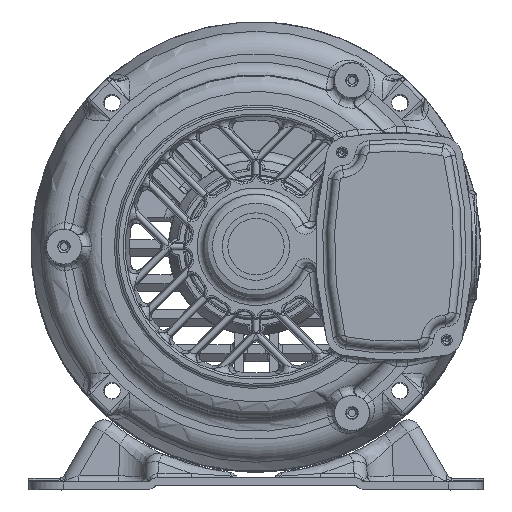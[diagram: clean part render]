
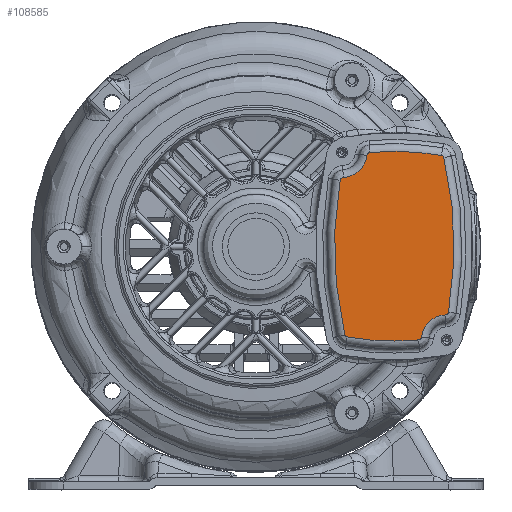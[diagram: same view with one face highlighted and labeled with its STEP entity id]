
A CAD part, top view. The second image highlights one B-rep face of the part: STEP entity #108585.
In plain terms, the highlighted planar face has unit normal (0, 0, 1) as drawn and (0, 0, -1) by its records, which use the part's own axes.
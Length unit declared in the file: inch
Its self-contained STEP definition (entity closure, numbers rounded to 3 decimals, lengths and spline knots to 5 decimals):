
#106976=CARTESIAN_POINT('',(-1.25804,-0.66754,-0.625));
#106977=DIRECTION('',(0.,0.,-1.));
#106978=DIRECTION('',(-0.231,-0.973,0.));
#106979=AXIS2_PLACEMENT_3D('',#106976,#106977,#106978);
#106981=CARTESIAN_POINT('',(0.,4.625,-0.625));
#106982=DIRECTION('',(0.,0.,-1.));
#106983=DIRECTION('',(0.172,-0.985,0.));
#106984=AXIS2_PLACEMENT_3D('',#106981,#106982,#106983);
#106986=CARTESIAN_POINT('',(0.93459,-0.72803,-0.625));
#106987=DIRECTION('',(0.,0.,-1.));
#106988=DIRECTION('',(0.999,-0.054,0.));
#106989=AXIS2_PLACEMENT_3D('',#106986,#106987,#106988);
#106991=CARTESIAN_POINT('',(1.344,-0.75,-0.625));
#106992=DIRECTION('',(0.,0.,1.));
#106993=DIRECTION('',(-0.122,0.993,0.));
#106994=AXIS2_PLACEMENT_3D('',#106991,#106992,#106993);
#106996=CARTESIAN_POINT('',(1.29401,-0.34306,-0.625));
#106997=DIRECTION('',(0.,0.,-1.));
#106998=DIRECTION('',(0.996,-0.087,0.));
#106999=AXIS2_PLACEMENT_3D('',#106996,#106997,#106998);
#107001=CARTESIAN_POINT('',(-2.625,0.,-0.625));
#107002=DIRECTION('',(0.,0.,-1.));
#107003=DIRECTION('',(0.986,0.169,0.));
#107004=AXIS2_PLACEMENT_3D('',#107001,#107002,#107003);
#107006=CARTESIAN_POINT('',(1.25804,0.66754,-0.625));
#107007=DIRECTION('',(0.,0.,-1.));
#107008=DIRECTION('',(0.231,0.973,0.));
#107009=AXIS2_PLACEMENT_3D('',#107006,#107007,#107008);
#107011=CARTESIAN_POINT('',(0.,-4.625,-0.625));
#107012=DIRECTION('',(0.,0.,-1.));
#107013=DIRECTION('',(-0.172,0.985,0.));
#107014=AXIS2_PLACEMENT_3D('',#107011,#107012,#107013);
#107016=CARTESIAN_POINT('',(-0.93459,0.72803,-0.625));
#107017=DIRECTION('',(0.,0.,-1.));
#107018=DIRECTION('',(-0.999,0.054,0.));
#107019=AXIS2_PLACEMENT_3D('',#107016,#107017,#107018);
#107021=CARTESIAN_POINT('',(-1.344,0.75,-0.625));
#107022=DIRECTION('',(0.,0.,1.));
#107023=DIRECTION('',(0.122,-0.993,0.));
#107024=AXIS2_PLACEMENT_3D('',#107021,#107022,#107023);
#107026=CARTESIAN_POINT('',(-1.29401,0.34306,-0.625));
#107027=DIRECTION('',(0.,0.,-1.));
#107028=DIRECTION('',(-0.996,0.087,0.));
#107029=AXIS2_PLACEMENT_3D('',#107026,#107027,#107028);
#107031=CARTESIAN_POINT('',(2.625,0.,-0.625));
#107032=DIRECTION('',(0.,0.,-1.));
#107033=DIRECTION('',(-0.986,-0.169,0.));
#107034=AXIS2_PLACEMENT_3D('',#107031,#107032,#107033);
#107369=CARTESIAN_POINT('',(-1.26784,-0.70879,-0.625));
#107370=CARTESIAN_POINT('',(-1.29983,-0.67472,-0.625));
#107371=VERTEX_POINT('',#107369);
#107372=VERTEX_POINT('',#107370);
#107377=CARTESIAN_POINT('',(-1.34223,0.34728,-0.625));
#107378=VERTEX_POINT('',#107377);
#107381=CARTESIAN_POINT('',(-0.94291,0.77571,-0.625));
#107382=CARTESIAN_POINT('',(1.26784,0.70879,-0.625));
#107383=VERTEX_POINT('',#107381);
#107384=VERTEX_POINT('',#107382);
#107389=CARTESIAN_POINT('',(1.29983,0.67472,-0.625));
#107390=VERTEX_POINT('',#107389);
#107393=CARTESIAN_POINT('',(1.34223,-0.34728,-0.625));
#107394=VERTEX_POINT('',#107393);
#107397=CARTESIAN_POINT('',(0.94291,-0.77571,-0.625));
#107398=VERTEX_POINT('',#107397);
#107465=CARTESIAN_POINT('',(-1.29991,0.3911,-0.625));
#107466=VERTEX_POINT('',#107465);
#107469=CARTESIAN_POINT('',(-0.98292,0.73062,-0.625));
#107470=VERTEX_POINT('',#107469);
#107473=CARTESIAN_POINT('',(1.29991,-0.3911,-0.625));
#107474=VERTEX_POINT('',#107473);
#107477=CARTESIAN_POINT('',(0.98292,-0.73062,-0.625));
#107478=VERTEX_POINT('',#107477);
#108555=CARTESIAN_POINT('',(0.,0.,-0.625));
#108556=DIRECTION('',(0.,0.,-1.));
#108557=DIRECTION('',(-1.,0.,0.));
#108558=AXIS2_PLACEMENT_3D('',#108555,#108556,#108557);
#108559=PLANE('',#108558);
#108561=ORIENTED_EDGE('',*,*,#108560,.F.);
#108563=ORIENTED_EDGE('',*,*,#108562,.F.);
#108565=ORIENTED_EDGE('',*,*,#108564,.F.);
#108567=ORIENTED_EDGE('',*,*,#108566,.F.);
#108569=ORIENTED_EDGE('',*,*,#108568,.F.);
#108571=ORIENTED_EDGE('',*,*,#108570,.F.);
#108573=ORIENTED_EDGE('',*,*,#108572,.F.);
#108575=ORIENTED_EDGE('',*,*,#108574,.F.);
#108577=ORIENTED_EDGE('',*,*,#108576,.F.);
#108579=ORIENTED_EDGE('',*,*,#108578,.F.);
#108581=ORIENTED_EDGE('',*,*,#108580,.F.);
#108582=ORIENTED_EDGE('',*,*,#108545,.F.);
#108583=EDGE_LOOP('',(#108561,#108563,#108565,#108567,#108569,#108571,#108573,
#108575,#108577,#108579,#108581,#108582));
#108584=FACE_OUTER_BOUND('',#108583,.F.);
#108585=ADVANCED_FACE('',(#108584),#108559,.T.);
#106980=CIRCLE('',#106979,0.0424);
#106985=CIRCLE('',#106984,5.4824);
#106990=CIRCLE('',#106989,0.0484);
#106995=CIRCLE('',#106994,0.3616);
#107000=CIRCLE('',#106999,0.0484);
#107005=CIRCLE('',#107004,3.9824);
#107010=CIRCLE('',#107009,0.0424);
#107015=CIRCLE('',#107014,5.4824);
#107020=CIRCLE('',#107019,0.0484);
#107025=CIRCLE('',#107024,0.3616);
#107030=CIRCLE('',#107029,0.0484);
#107035=CIRCLE('',#107034,3.9824);
#108545=EDGE_CURVE('',#107372,#107378,#107035,.T.);
#108560=EDGE_CURVE('',#107371,#107372,#106980,.T.);
#108562=EDGE_CURVE('',#107398,#107371,#106985,.T.);
#108564=EDGE_CURVE('',#107478,#107398,#106990,.T.);
#108566=EDGE_CURVE('',#107474,#107478,#106995,.T.);
#108568=EDGE_CURVE('',#107394,#107474,#107000,.T.);
#108570=EDGE_CURVE('',#107390,#107394,#107005,.T.);
#108572=EDGE_CURVE('',#107384,#107390,#107010,.T.);
#108574=EDGE_CURVE('',#107383,#107384,#107015,.T.);
#108576=EDGE_CURVE('',#107470,#107383,#107020,.T.);
#108578=EDGE_CURVE('',#107466,#107470,#107025,.T.);
#108580=EDGE_CURVE('',#107378,#107466,#107030,.T.);
